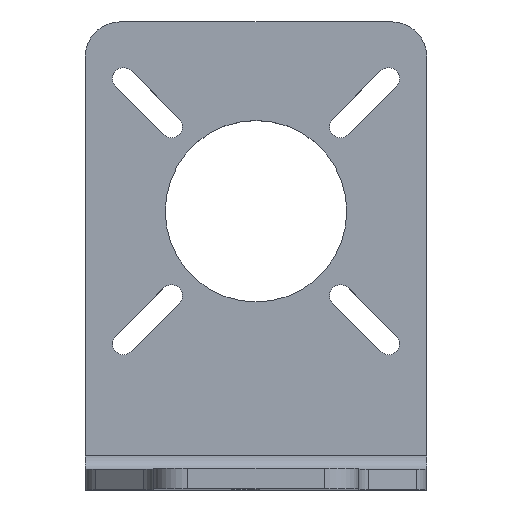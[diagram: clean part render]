
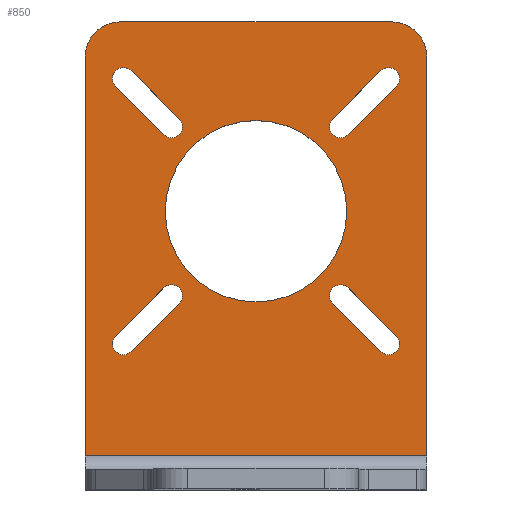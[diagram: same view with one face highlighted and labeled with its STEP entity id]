
A CAD part, top view. The second image highlights one B-rep face of the part: STEP entity #850.
In plain terms, the highlighted planar face has unit normal (0, 0, 1).
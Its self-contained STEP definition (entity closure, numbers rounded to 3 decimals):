
#17=FACE_BOUND('',#163,.T.);
#18=FACE_BOUND('',#164,.T.);
#19=FACE_BOUND('',#165,.T.);
#20=FACE_BOUND('',#166,.T.);
#21=FACE_BOUND('',#167,.T.);
#27=CIRCLE('',#888,1.6);
#29=CIRCLE('',#892,1.6);
#31=CIRCLE('',#896,1.6);
#33=CIRCLE('',#900,1.6);
#35=CIRCLE('',#904,1.6);
#37=CIRCLE('',#908,1.6);
#59=CIRCLE('',#945,5.);
#61=CIRCLE('',#948,5.);
#62=CIRCLE('',#949,1.6);
#63=CIRCLE('',#950,1.6);
#64=CIRCLE('',#951,13.3);
#117=FACE_OUTER_BOUND('',#162,.T.);
#162=EDGE_LOOP('',(#699,#700,#701,#702,#703,#704));
#163=EDGE_LOOP('',(#705,#706,#707,#708));
#164=EDGE_LOOP('',(#709,#710,#711,#712));
#165=EDGE_LOOP('',(#713,#714,#715,#716));
#166=EDGE_LOOP('',(#717,#718,#719,#720));
#167=EDGE_LOOP('',(#721));
#188=LINE('',#1228,#269);
#193=LINE('',#1242,#274);
#196=LINE('',#1252,#277);
#201=LINE('',#1266,#282);
#204=LINE('',#1276,#285);
#209=LINE('',#1290,#290);
#237=LINE('',#1376,#318);
#247=LINE('',#1407,#328);
#251=LINE('',#1421,#332);
#252=LINE('',#1423,#333);
#253=LINE('',#1426,#334);
#254=LINE('',#1430,#335);
#269=VECTOR('',#975,10.);
#274=VECTOR('',#988,10.);
#277=VECTOR('',#999,10.);
#282=VECTOR('',#1012,10.);
#285=VECTOR('',#1023,10.);
#290=VECTOR('',#1036,10.);
#318=VECTOR('',#1114,10.);
#328=VECTOR('',#1146,10.);
#332=VECTOR('',#1160,10.);
#333=VECTOR('',#1163,10.);
#334=VECTOR('',#1164,10.);
#335=VECTOR('',#1167,10.);
#350=VERTEX_POINT('',#1226);
#351=VERTEX_POINT('',#1227);
#354=VERTEX_POINT('',#1235);
#356=VERTEX_POINT('',#1241);
#358=VERTEX_POINT('',#1250);
#359=VERTEX_POINT('',#1251);
#362=VERTEX_POINT('',#1259);
#364=VERTEX_POINT('',#1265);
#366=VERTEX_POINT('',#1274);
#367=VERTEX_POINT('',#1275);
#370=VERTEX_POINT('',#1283);
#372=VERTEX_POINT('',#1289);
#404=VERTEX_POINT('',#1373);
#405=VERTEX_POINT('',#1375);
#414=VERTEX_POINT('',#1404);
#415=VERTEX_POINT('',#1406);
#418=VERTEX_POINT('',#1414);
#420=VERTEX_POINT('',#1420);
#421=VERTEX_POINT('',#1424);
#422=VERTEX_POINT('',#1425);
#423=VERTEX_POINT('',#1427);
#424=VERTEX_POINT('',#1429);
#425=VERTEX_POINT('',#1432);
#432=EDGE_CURVE('',#350,#351,#188,.T.);
#436=EDGE_CURVE('',#351,#354,#27,.T.);
#439=EDGE_CURVE('',#354,#356,#193,.T.);
#442=EDGE_CURVE('',#356,#350,#29,.T.);
#444=EDGE_CURVE('',#358,#359,#196,.T.);
#448=EDGE_CURVE('',#359,#362,#31,.T.);
#451=EDGE_CURVE('',#362,#364,#201,.T.);
#454=EDGE_CURVE('',#364,#358,#33,.T.);
#456=EDGE_CURVE('',#366,#367,#204,.T.);
#460=EDGE_CURVE('',#367,#370,#35,.T.);
#463=EDGE_CURVE('',#370,#372,#209,.T.);
#466=EDGE_CURVE('',#372,#366,#37,.T.);
#506=EDGE_CURVE('',#404,#405,#237,.T.);
#522=EDGE_CURVE('',#414,#415,#247,.T.);
#526=EDGE_CURVE('',#418,#404,#59,.T.);
#529=EDGE_CURVE('',#420,#418,#251,.T.);
#530=EDGE_CURVE('',#415,#420,#61,.T.);
#531=EDGE_CURVE('',#405,#414,#252,.T.);
#532=EDGE_CURVE('',#421,#422,#253,.T.);
#533=EDGE_CURVE('',#422,#423,#62,.T.);
#534=EDGE_CURVE('',#423,#424,#254,.T.);
#535=EDGE_CURVE('',#424,#421,#63,.T.);
#536=EDGE_CURVE('',#425,#425,#64,.T.);
#699=ORIENTED_EDGE('',*,*,#526,.F.);
#700=ORIENTED_EDGE('',*,*,#529,.F.);
#701=ORIENTED_EDGE('',*,*,#530,.F.);
#702=ORIENTED_EDGE('',*,*,#522,.F.);
#703=ORIENTED_EDGE('',*,*,#531,.F.);
#704=ORIENTED_EDGE('',*,*,#506,.F.);
#705=ORIENTED_EDGE('',*,*,#439,.T.);
#706=ORIENTED_EDGE('',*,*,#442,.T.);
#707=ORIENTED_EDGE('',*,*,#432,.T.);
#708=ORIENTED_EDGE('',*,*,#436,.T.);
#709=ORIENTED_EDGE('',*,*,#451,.T.);
#710=ORIENTED_EDGE('',*,*,#454,.T.);
#711=ORIENTED_EDGE('',*,*,#444,.T.);
#712=ORIENTED_EDGE('',*,*,#448,.T.);
#713=ORIENTED_EDGE('',*,*,#463,.T.);
#714=ORIENTED_EDGE('',*,*,#466,.T.);
#715=ORIENTED_EDGE('',*,*,#456,.T.);
#716=ORIENTED_EDGE('',*,*,#460,.T.);
#717=ORIENTED_EDGE('',*,*,#532,.T.);
#718=ORIENTED_EDGE('',*,*,#533,.T.);
#719=ORIENTED_EDGE('',*,*,#534,.T.);
#720=ORIENTED_EDGE('',*,*,#535,.T.);
#721=ORIENTED_EDGE('',*,*,#536,.T.);
#815=PLANE('',#947);
#850=ADVANCED_FACE('',(#117,#17,#18,#19,#20,#21),#815,.T.);
#888=AXIS2_PLACEMENT_3D('',#1236,#981,#982);
#892=AXIS2_PLACEMENT_3D('',#1247,#993,#994);
#896=AXIS2_PLACEMENT_3D('',#1260,#1005,#1006);
#900=AXIS2_PLACEMENT_3D('',#1271,#1017,#1018);
#904=AXIS2_PLACEMENT_3D('',#1284,#1029,#1030);
#908=AXIS2_PLACEMENT_3D('',#1295,#1041,#1042);
#945=AXIS2_PLACEMENT_3D('',#1415,#1153,#1154);
#947=AXIS2_PLACEMENT_3D('',#1419,#1158,#1159);
#948=AXIS2_PLACEMENT_3D('',#1422,#1161,#1162);
#949=AXIS2_PLACEMENT_3D('',#1428,#1165,#1166);
#950=AXIS2_PLACEMENT_3D('',#1431,#1168,#1169);
#951=AXIS2_PLACEMENT_3D('',#1433,#1170,#1171);
#975=DIRECTION('',(0.707,-0.707,0.));
#981=DIRECTION('center_axis',(0.,0.,
-1.));
#982=DIRECTION('ref_axis',(-0.707,-0.707,0.));
#988=DIRECTION('',(-0.707,0.707,0.));
#993=DIRECTION('center_axis',(0.,0.,
-1.));
#994=DIRECTION('ref_axis',(0.707,0.707,0.));
#999=DIRECTION('',(-0.707,-0.707,0.));
#1005=DIRECTION('center_axis',(0.,0.,
-1.));
#1006=DIRECTION('ref_axis',(-0.707,0.707,0.));
#1012=DIRECTION('',(0.707,0.707,0.));
#1017=DIRECTION('center_axis',(0.,0.,
-1.));
#1018=DIRECTION('ref_axis',(0.707,-0.707,0.));
#1023=DIRECTION('',(-0.707,0.707,0.));
#1029=DIRECTION('center_axis',(0.,0.,
-1.));
#1030=DIRECTION('ref_axis',(0.707,0.707,0.));
#1036=DIRECTION('',(0.707,-0.707,0.));
#1041=DIRECTION('center_axis',(0.,0.,
-1.));
#1042=DIRECTION('ref_axis',(-0.707,-0.707,0.));
#1114=DIRECTION('',(0.,-1.,0.));
#1146=DIRECTION('',(0.,1.,0.));
#1153=DIRECTION('center_axis',(0.,0.,
-1.));
#1154=DIRECTION('ref_axis',(0.707,0.707,0.));
#1158=DIRECTION('center_axis',(0.,0.,
1.));
#1159=DIRECTION('ref_axis',(1.,0.,0.));
#1160=DIRECTION('',(1.,0.,0.));
#1161=DIRECTION('center_axis',(0.,0.,
-1.));
#1162=DIRECTION('ref_axis',(-0.707,0.707,0.));
#1163=DIRECTION('',(-1.,0.,0.));
#1164=DIRECTION('',(-0.707,-0.707,0.));
#1165=DIRECTION('center_axis',(0.,0.,
-1.));
#1166=DIRECTION('ref_axis',(-0.707,0.707,0.));
#1167=DIRECTION('',(0.707,0.707,0.));
#1168=DIRECTION('center_axis',(0.,0.,
-1.));
#1169=DIRECTION('ref_axis',(0.707,-0.707,0.));
#1170=DIRECTION('center_axis',(0.,0.,
-1.));
#1171=DIRECTION('ref_axis',(-1.,0.,0.));
#1226=CARTESIAN_POINT('',(-18.314,27.137,1.5));
#1227=CARTESIAN_POINT('',(-11.243,20.066,1.5));
#1228=CARTESIAN_POINT('',(-6.951,15.774,1.5));
#1235=CARTESIAN_POINT('',(-13.506,17.803,1.5));
#1236=CARTESIAN_POINT('Origin',(-12.374,18.934,1.5));
#1241=CARTESIAN_POINT('',(-20.577,24.874,1.5));
#1242=CARTESIAN_POINT('',(-5.679,9.976,1.5));
#1247=CARTESIAN_POINT('Origin',(-19.445,26.005,1.5));
#1250=CARTESIAN_POINT('',(20.577,24.874,1.5));
#1251=CARTESIAN_POINT('',(13.506,17.803,1.5));
#1252=CARTESIAN_POINT('',(9.214,13.511,1.5));
#1259=CARTESIAN_POINT('',(11.243,20.066,1.5));
#1260=CARTESIAN_POINT('Origin',(12.374,18.934,1.5));
#1265=CARTESIAN_POINT('',(18.314,27.137,1.5));
#1266=CARTESIAN_POINT('',(3.416,12.239,1.5));
#1271=CARTESIAN_POINT('Origin',(19.445,26.005,1.5));
#1274=CARTESIAN_POINT('',(18.314,-14.017,1.5));
#1275=CARTESIAN_POINT('',(11.243,-6.946,1.5));
#1276=CARTESIAN_POINT('',(10.231,-5.934,1.5));
#1283=CARTESIAN_POINT('',(13.506,-4.683,1.5));
#1284=CARTESIAN_POINT('Origin',(12.374,-5.814,1.5));
#1289=CARTESIAN_POINT('',(20.577,-11.754,1.5));
#1290=CARTESIAN_POINT('',(8.959,-0.136,1.5));
#1295=CARTESIAN_POINT('Origin',(19.445,-12.885,1.5));
#1373=CARTESIAN_POINT('',(25.,29.3,1.5));
#1375=CARTESIAN_POINT('',(25.,-29.3,1.5));
#1376=CARTESIAN_POINT('',(25.,34.3,1.5));
#1404=CARTESIAN_POINT('',(-25.,-29.3,1.5));
#1406=CARTESIAN_POINT('',(-25.,29.3,1.5));
#1407=CARTESIAN_POINT('',(-25.,-34.3,1.5));
#1414=CARTESIAN_POINT('',(20.,34.3,1.5));
#1415=CARTESIAN_POINT('Origin',(20.,29.3,1.5));
#1419=CARTESIAN_POINT('Origin',(0.,0.,
1.5));
#1420=CARTESIAN_POINT('',(-20.,34.3,1.5));
#1421=CARTESIAN_POINT('',(-25.,34.3,1.5));
#1422=CARTESIAN_POINT('Origin',(-20.,29.3,1.5));
#1423=CARTESIAN_POINT('',(-12.5,-29.3,1.5));
#1424=CARTESIAN_POINT('',(-11.243,-6.946,1.5));
#1425=CARTESIAN_POINT('',(-18.314,-14.017,1.5));
#1426=CARTESIAN_POINT('',(-6.696,-2.399,1.5));
#1427=CARTESIAN_POINT('',(-20.577,-11.754,1.5));
#1428=CARTESIAN_POINT('Origin',(-19.445,-12.885,1.5));
#1429=CARTESIAN_POINT('',(-13.506,-4.683,1.5));
#1430=CARTESIAN_POINT('',(-12.494,-3.671,1.5));
#1431=CARTESIAN_POINT('Origin',(-12.374,-5.814,1.5));
#1432=CARTESIAN_POINT('',(13.3,6.56,1.5));
#1433=CARTESIAN_POINT('Origin',(0.,6.56,1.5));
